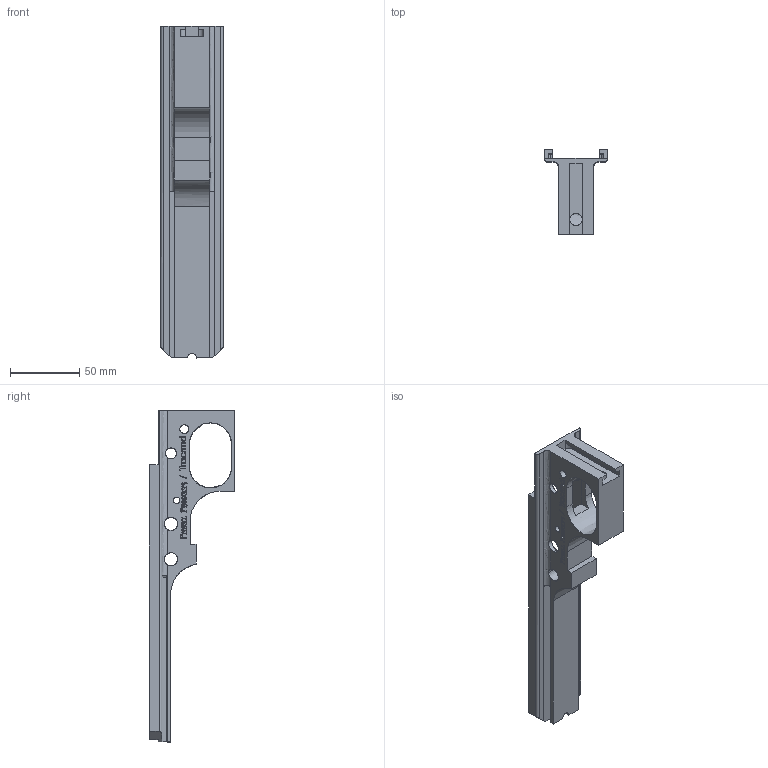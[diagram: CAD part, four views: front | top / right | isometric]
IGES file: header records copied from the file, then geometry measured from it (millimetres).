
Start section: SolidWorks IGES file using analytic representation for surfaces
Global section: file name: M:\solidworks files\firearms cad files\Thompson Lower Receiver .IGS; native system: SolidWorks 2008; preprocessor: SolidWorks 2008; author: owner; date: 100404.224308; units: inch
Bounding box: 45.21 x 61.59 x 240.05 mm (x, y, z)
Surface area: 51702.3 mm2 (no closed solid volume)
Topology: 0 solids, 0 shells, 1042 faces, 14214 edges, 14214 vertices
Faces by surface type: bspline 995, revolution 47
